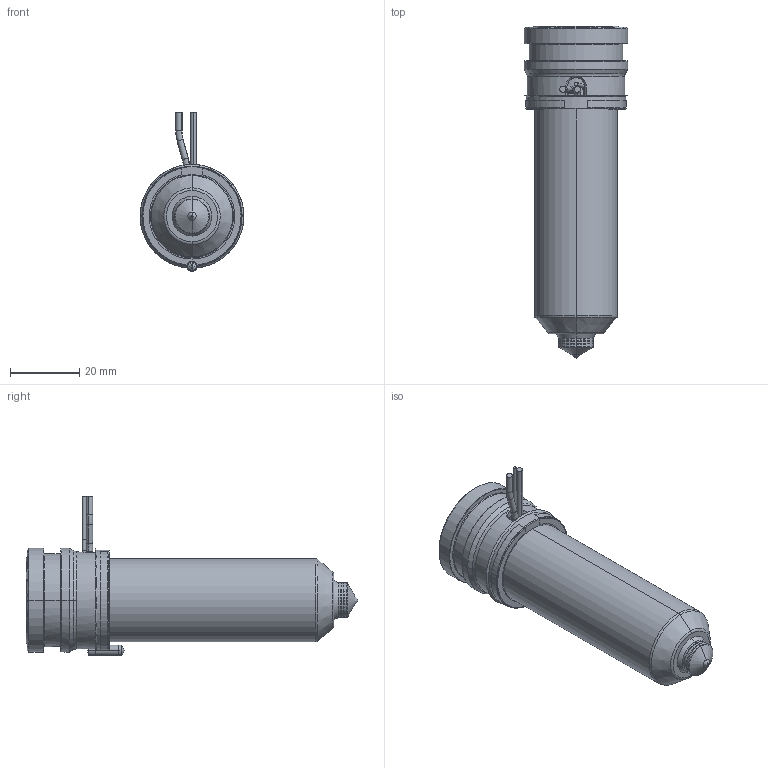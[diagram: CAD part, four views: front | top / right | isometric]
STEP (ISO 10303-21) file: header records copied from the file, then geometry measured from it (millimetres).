
FILE_DESCRIPTION((''),'2;1');
FILE_NAME('MPN-10-29-TS10-076-A','2026-02-05T12:32:46',('UPTIO'),('Thermoplay S.p.A.'),'CREO PARAMETRIC BY PTC INC, 2023494','CREO PARAMETRIC BY PTC INC, 2023494','');
FILE_SCHEMA(('CONFIG_CONTROL_DESIGN','SHAPE_APPEARANCE_LAYERS_GROUPS'));
Length unit declared in the file: millimetre
Products named in the file (1): MPN-10-29-TS10-076-A
Bounding box: 30 x 96 x 46 mm (x, y, z)
Volume: 31032.1 mm3; surface area: 30565.1 mm2
Topology: 2 solids, 3 shells, 552 faces, 1455 edges, 898 vertices
Faces by surface type: cylinder 180, plane 145, bspline 78, torus 68, cone 66, sphere 11, extrusion 4
Entity records: 29782 total; most frequent: CARTESIAN_POINT 13403, ORIENTED_EDGE 2894, DIRECTION 2651, EDGE_CURVE 1447, AXIS2_PLACEMENT_3D 1051, VERTEX_POINT 898, EDGE_LOOP 581, CIRCLE 580
